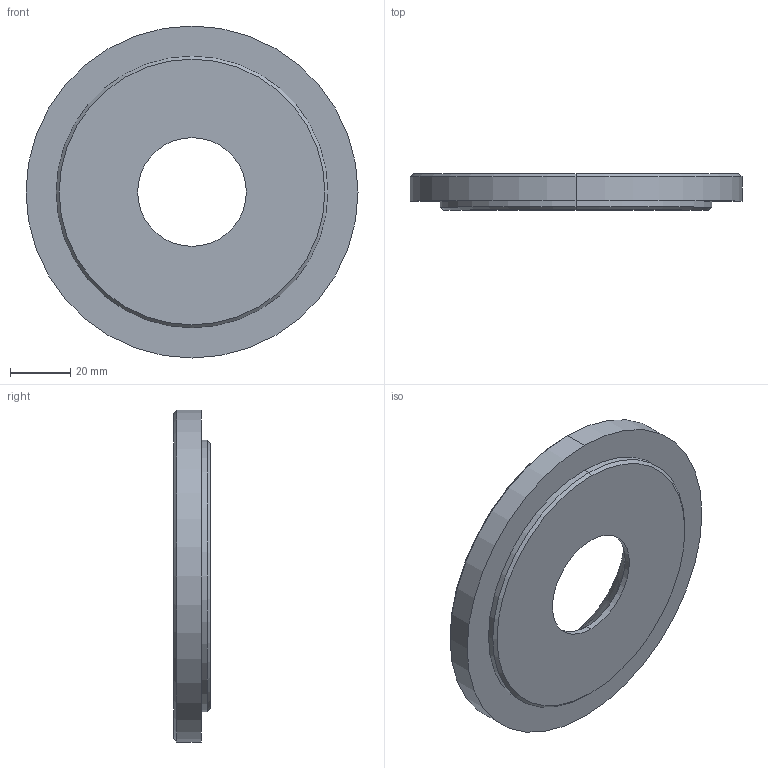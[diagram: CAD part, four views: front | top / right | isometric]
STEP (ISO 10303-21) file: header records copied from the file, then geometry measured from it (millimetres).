
FILE_DESCRIPTION (( 'STEP AP214' ), '1' );
FILE_NAME ('BRLRS-110x36x12.STEP', '2020-02-05T09:35:45', ( 'August' ), ( '' ), 'SwSTEP 2.0', 'SolidWorks 2018', '' );
FILE_SCHEMA (( 'AUTOMOTIVE_DESIGN' ));
Length unit declared in the file: millimetre
Products named in the file (1): BRLRS-110x36x12
Bounding box: 110 x 12 x 110 mm (x, y, z)
Volume: 85386.4 mm3; surface area: 21383.4 mm2
Topology: 1 solids, 1 shells, 15 faces, 30 edges, 18 vertices
Faces by surface type: cone 6, cylinder 6, plane 3
Entity records: 432 total; most frequent: DIRECTION 80, CARTESIAN_POINT 64, ORIENTED_EDGE 60, AXIS2_PLACEMENT_3D 34, EDGE_CURVE 30, EDGE_LOOP 18, CIRCLE 18, VERTEX_POINT 18
